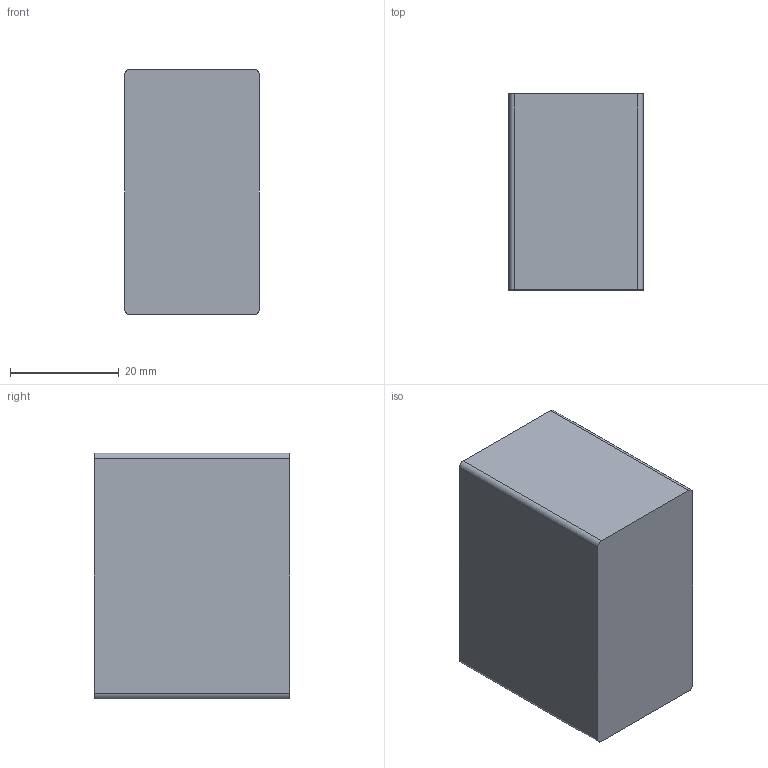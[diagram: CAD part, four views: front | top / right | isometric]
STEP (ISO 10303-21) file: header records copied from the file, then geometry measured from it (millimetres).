
FILE_DESCRIPTION(('Open CASCADE Model'),'2;1');
FILE_NAME('Open CASCADE Shape Model','2026-10-13T11:47:37',('Author'),( 'Open CASCADE'),'Open CASCADE STEP processor 7.8','Open CASCADE 7.8' ,'Unknown');
FILE_SCHEMA(('AUTOMOTIVE_DESIGN { 1 0 10303 214 1 1 1 1 }'));
Length unit declared in the file: millimetre
Products named in the file (1): Open CASCADE STEP translator 7.8 58
Bounding box: 24.72 x 36 x 45.22 mm (x, y, z)
Volume: 40211.3 mm3; surface area: 7207.8 mm2
Topology: 1 solids, 1 shells, 10 faces, 24 edges, 16 vertices
Faces by surface type: plane 6, cylinder 4
Entity records: 636 total; most frequent: CARTESIAN_POINT 135, DIRECTION 96, LINE 56, VECTOR 56, ORIENTED_EDGE 48, PCURVE 48, DEFINITIONAL_REPRESENTATION 48, EDGE_CURVE 24
